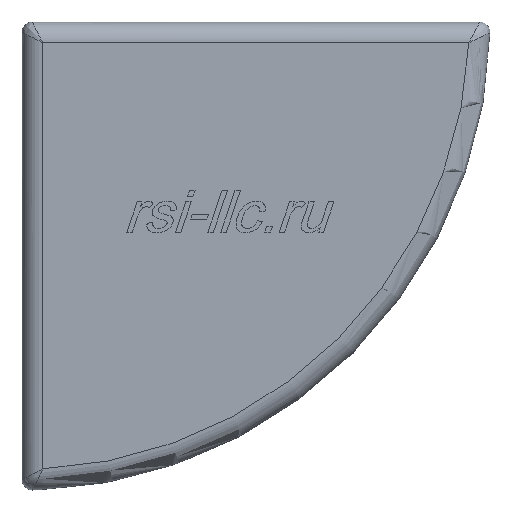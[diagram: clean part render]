
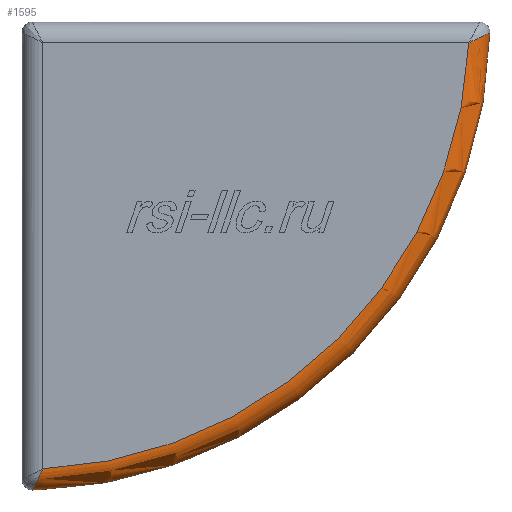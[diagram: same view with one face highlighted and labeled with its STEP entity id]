
A CAD part, front view. The second image highlights one B-rep face of the part: STEP entity #1595.
In plain terms, the highlighted toroidal (fillet/blend) face has major radius 43.012 mm and minor radius 2 mm.
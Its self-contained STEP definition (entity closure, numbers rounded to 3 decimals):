
#473 = CARTESIAN_POINT ( 'NONE',  ( 1.023, 2., -45. ) ) ;
#491 = DIRECTION ( 'NONE',  ( 0., 0., 1. ) ) ;
#546 = CARTESIAN_POINT ( 'NONE',  ( 2., 0., -42.965 ) ) ;
#573 = CARTESIAN_POINT ( 'NONE',  ( 1.169, 0.949, -44.703 ) ) ;
#606 = CARTESIAN_POINT ( 'NONE',  ( 45., 2., -1.023 ) ) ;
#633 = CARTESIAN_POINT ( 'NONE',  ( 43.469, 0.058, -1.764 ) ) ;
#666 = EDGE_LOOP ( 'NONE', ( #5700, #7651, #3436, #5587 ) ) ;
#720 = DIRECTION ( 'NONE',  ( 0., 0., 1. ) ) ;
#727 = VERTEX_POINT ( 'NONE', #7599 ) ;
#1227 = CARTESIAN_POINT ( 'NONE',  ( 43.091, 0., -1.941 ) ) ;
#1279 = CARTESIAN_POINT ( 'NONE',  ( 1.08, 1.317, -44.883 ) ) ;
#1442 = TOROIDAL_SURFACE ( 'NONE', #4234, 43.012, 2. ) ;
#1595 = ADVANCED_FACE ( 'NONE', ( #2872 ), #1442, .T. ) ;
#1801 = CARTESIAN_POINT ( 'NONE',  ( 44.927, 1.45, -1.059 ) ) ;
#1883 = CARTESIAN_POINT ( 'NONE',  ( 1.03, 1.721, -44.985 ) ) ;
#2024 = DIRECTION ( 'NONE',  ( 0., 1., 0. ) ) ;
#2182 = EDGE_CURVE ( 'NONE', #5676, #2764, #6599, .T. ) ;
#2404 = CARTESIAN_POINT ( 'NONE',  ( 44.772, 1.068, -1.135 ) ) ;
#2480 = CARTESIAN_POINT ( 'NONE',  ( 1.023, 2., -45. ) ) ;
#2764 = VERTEX_POINT ( 'NONE', #3208 ) ;
#2813 = B_SPLINE_CURVE_WITH_KNOTS ( 'NONE', 3,
 ( #546, #5953, #6538, #7145, #3580, #7743, #4176, #573, #4794, #1279, #5489, #1883, #6084, #2480 ),
 .UNSPECIFIED., .F., .F.,
 ( 4, 2, 2, 2, 2, 2, 4 ),
 ( 0., 0.001, 0.002, 0.002, 0.003, 0.003, 0.003 ),
 .UNSPECIFIED. ) ;
#2872 = FACE_OUTER_BOUND ( 'NONE', #666, .T. ) ;
#3020 = CARTESIAN_POINT ( 'NONE',  ( 44.547, 0.733, -1.245 ) ) ;
#3208 = CARTESIAN_POINT ( 'NONE',  ( 42.965, 0., -2. ) ) ;
#3436 = ORIENTED_EDGE ( 'NONE', *, *, #3810, .T. ) ;
#3580 = CARTESIAN_POINT ( 'NONE',  ( 1.429, 0.365, -44.169 ) ) ;
#3629 = CARTESIAN_POINT ( 'NONE',  ( 44.169, 0.365, -1.429 ) ) ;
#3810 = EDGE_CURVE ( 'NONE', #5676, #6233, #2813, .T. ) ;
#4098 = DIRECTION ( 'NONE',  ( 0., -1., 0. ) ) ;
#4159 = CARTESIAN_POINT ( 'NONE',  ( 0., 2., 0. ) ) ;
#4176 = CARTESIAN_POINT ( 'NONE',  ( 1.245, 0.733, -44.547 ) ) ;
#4206 = CARTESIAN_POINT ( 'NONE',  ( 45., 1.859, -1.023 ) ) ;
#4234 = AXIS2_PLACEMENT_3D ( 'NONE', #4159, #5293, #720 ) ;
#4243 = CARTESIAN_POINT ( 'NONE',  ( 43.592, 0.092, -1.705 ) ) ;
#4794 = CARTESIAN_POINT ( 'NONE',  ( 1.135, 1.068, -44.772 ) ) ;
#4838 = CARTESIAN_POINT ( 'NONE',  ( 43.219, 0.012, -1.881 ) ) ;
#5032 = CARTESIAN_POINT ( 'NONE',  ( 2., 0., -42.965 ) ) ;
#5293 = DIRECTION ( 'NONE',  ( 0., 1., 0. ) ) ;
#5331 = CIRCLE ( 'NONE', #5448, 45.012 ) ;
#5412 = CARTESIAN_POINT ( 'NONE',  ( 44.985, 1.721, -1.03 ) ) ;
#5442 = CARTESIAN_POINT ( 'NONE',  ( 42.965, 0., -2. ) ) ;
#5448 = AXIS2_PLACEMENT_3D ( 'NONE', #5623, #2024, #6221 ) ;
#5489 = CARTESIAN_POINT ( 'NONE',  ( 1.059, 1.45, -44.927 ) ) ;
#5587 = ORIENTED_EDGE ( 'NONE', *, *, #7447, .F. ) ;
#5623 = CARTESIAN_POINT ( 'NONE',  ( 0., 2., 0. ) ) ;
#5676 = VERTEX_POINT ( 'NONE', #5032 ) ;
#5700 = ORIENTED_EDGE ( 'NONE', *, *, #6876, .T. ) ;
#5924 = AXIS2_PLACEMENT_3D ( 'NONE', #7682, #4098, #491 ) ;
#5953 = CARTESIAN_POINT ( 'NONE',  ( 1.882, 0., -43.219 ) ) ;
#6010 = CARTESIAN_POINT ( 'NONE',  ( 44.883, 1.317, -1.08 ) ) ;
#6084 = CARTESIAN_POINT ( 'NONE',  ( 1.023, 1.859, -45. ) ) ;
#6221 = DIRECTION ( 'NONE',  ( 0., 0., 1. ) ) ;
#6233 = VERTEX_POINT ( 'NONE', #473 ) ;
#6538 = CARTESIAN_POINT ( 'NONE',  ( 1.762, 0.046, -43.472 ) ) ;
#6595 = CARTESIAN_POINT ( 'NONE',  ( 44.703, 0.949, -1.169 ) ) ;
#6599 = CIRCLE ( 'NONE', #5924, 43.012 ) ;
#6876 = EDGE_CURVE ( 'NONE', #727, #2764, #7722, .T. ) ;
#7145 = CARTESIAN_POINT ( 'NONE',  ( 1.535, 0.23, -43.95 ) ) ;
#7204 = CARTESIAN_POINT ( 'NONE',  ( 44.46, 0.634, -1.288 ) ) ;
#7447 = EDGE_CURVE ( 'NONE', #727, #6233, #5331, .T. ) ;
#7599 = CARTESIAN_POINT ( 'NONE',  ( 45., 2., -1.023 ) ) ;
#7651 = ORIENTED_EDGE ( 'NONE', *, *, #2182, .F. ) ;
#7682 = CARTESIAN_POINT ( 'NONE',  ( 0., 0., 0. ) ) ;
#7722 = B_SPLINE_CURVE_WITH_KNOTS ( 'NONE', 3,
 ( #606, #4206, #5412, #1801, #6010, #2404, #6595, #3020, #7204, #3629, #7798, #4243, #633, #4838, #1227, #5442 ),
 .UNSPECIFIED., .F., .F.,
 ( 4, 2, 2, 2, 2, 2, 2, 4 ),
 ( 0., 0., 0.001, 0.001, 0.002, 0.003, 0.003, 0.003 ),
 .UNSPECIFIED. ) ;
#7743 = CARTESIAN_POINT ( 'NONE',  ( 1.288, 0.634, -44.46 ) ) ;
#7798 = CARTESIAN_POINT ( 'NONE',  ( 43.95, 0.23, -1.535 ) ) ;
